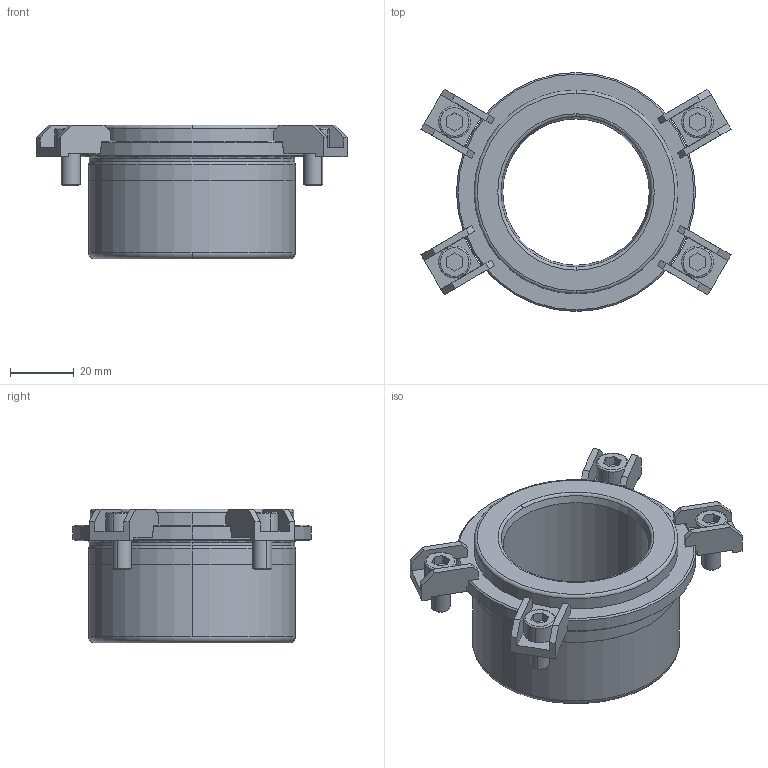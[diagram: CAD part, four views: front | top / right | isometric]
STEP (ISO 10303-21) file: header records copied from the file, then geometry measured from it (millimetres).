
FILE_DESCRIPTION((''),'2;1');
FILE_NAME('B42_038_032.stp','2008-11-04T14:33:12',(''),(''),'Mechanical Desktop 2009','Mechanical Desktop 2009',', , ');
FILE_SCHEMA(('CONFIG_CONTROL_DESIGN'));
Length unit declared in the file: millimetre
Products named in the file (2): Product; blmdl1
Assembly tree (1 placements, depth 2):
  Product
    blmdl1
Bounding box: 97.32 x 75 x 42 mm (x, y, z)
Volume: 80164.2 mm3; surface area: 26379.9 mm2
Topology: 9 solids, 9 shells, 233 faces, 598 edges, 394 vertices
Faces by surface type: plane 137, cylinder 48, cone 20, torus 16, bspline 12
Entity records: 7707 total; most frequent: CARTESIAN_POINT 1755, DIRECTION 1258, ORIENTED_EDGE 1196, EDGE_CURVE 598, AXIS2_PLACEMENT_3D 437, VERTEX_POINT 394, VECTOR 384, LINE 384
